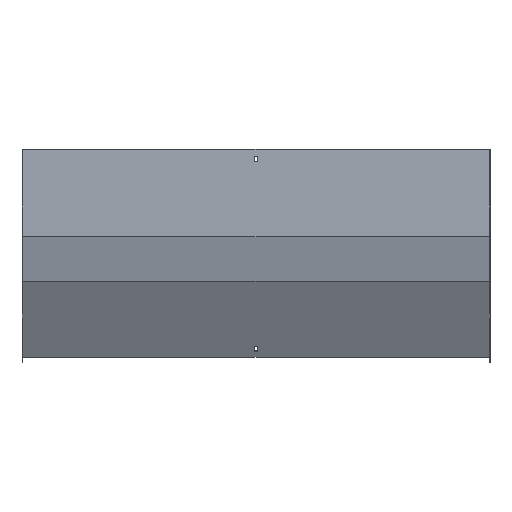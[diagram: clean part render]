
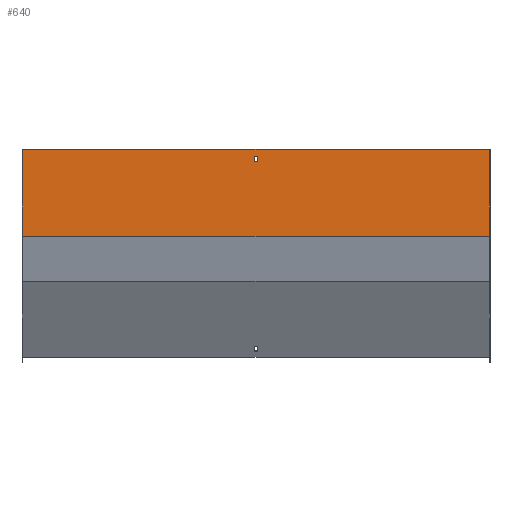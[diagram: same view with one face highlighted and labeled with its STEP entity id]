
A CAD part, front view. The second image highlights one B-rep face of the part: STEP entity #640.
In plain terms, the highlighted planar face has unit normal (0, -1, 0).
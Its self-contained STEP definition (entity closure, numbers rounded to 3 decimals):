
#28 = ORIENTED_EDGE ( 'NONE', *, *, #388, .F. ) ;
#29 = CARTESIAN_POINT ( 'NONE',  ( 401.5, -1.5, -12. ) ) ;
#43 = DIRECTION ( 'NONE',  ( 0., 0., -1. ) ) ;
#53 = CARTESIAN_POINT ( 'NONE',  ( -3.25, -1.5, -12. ) ) ;
#57 = CARTESIAN_POINT ( 'NONE',  ( -400., -1.5, 0. ) ) ;
#62 = VERTEX_POINT ( 'NONE', #784 ) ;
#72 = EDGE_CURVE ( 'NONE', #480, #496, #529, .T. ) ;
#75 = DIRECTION ( 'NONE',  ( 0., 0., 1. ) ) ;
#79 = DIRECTION ( 'NONE',  ( 0., 1., 0. ) ) ;
#157 = VECTOR ( 'NONE', #362, 1000. ) ;
#167 = CARTESIAN_POINT ( 'NONE',  ( -400., -1.5, 0. ) ) ;
#169 = CARTESIAN_POINT ( 'NONE',  ( 401.5, -1.5, -21. ) ) ;
#173 = VECTOR ( 'NONE', #439, 1000. ) ;
#183 = VECTOR ( 'NONE', #759, 1000. ) ;
#203 = FACE_BOUND ( 'NONE', #711, .T. ) ;
#213 = AXIS2_PLACEMENT_3D ( 'NONE', #595, #79, #75 ) ;
#214 = ORIENTED_EDGE ( 'NONE', *, *, #535, .T. ) ;
#217 = CARTESIAN_POINT ( 'NONE',  ( 3.25, -1.5, 0. ) ) ;
#224 = LINE ( 'NONE', #29, #157 ) ;
#242 = CARTESIAN_POINT ( 'NONE',  ( 3.25, -1.5, -21. ) ) ;
#243 = EDGE_CURVE ( 'NONE', #62, #480, #688, .T. ) ;
#249 = EDGE_CURVE ( 'NONE', #648, #334, #442, .T. ) ;
#265 = CARTESIAN_POINT ( 'NONE',  ( -3.25, -1.5, -21. ) ) ;
#275 = DIRECTION ( 'NONE',  ( 0., 0., -1. ) ) ;
#277 = CARTESIAN_POINT ( 'NONE',  ( 400., -1.5, -150.097 ) ) ;
#318 = EDGE_CURVE ( 'NONE', #512, #496, #644, .T. ) ;
#322 = LINE ( 'NONE', #374, #380 ) ;
#331 = VECTOR ( 'NONE', #43, 1000. ) ;
#333 = DIRECTION ( 'NONE',  ( -1., 0., 0. ) ) ;
#334 = VERTEX_POINT ( 'NONE', #242 ) ;
#340 = CARTESIAN_POINT ( 'NONE',  ( 400., -1.5, 0. ) ) ;
#353 = CARTESIAN_POINT ( 'NONE',  ( 3.25, -1.5, -12. ) ) ;
#362 = DIRECTION ( 'NONE',  ( -1., 0., 0. ) ) ;
#370 = DIRECTION ( 'NONE',  ( -1., 0., 0. ) ) ;
#371 = EDGE_LOOP ( 'NONE', ( #789, #563, #545, #214 ) ) ;
#374 = CARTESIAN_POINT ( 'NONE',  ( 401.5, -1.5, 0. ) ) ;
#380 = VECTOR ( 'NONE', #370, 1000. ) ;
#388 = EDGE_CURVE ( 'NONE', #334, #790, #540, .T. ) ;
#436 = CARTESIAN_POINT ( 'NONE',  ( -3.25, -1.5, 0. ) ) ;
#439 = DIRECTION ( 'NONE',  ( 0., 0., -1. ) ) ;
#442 = LINE ( 'NONE', #169, #183 ) ;
#457 = CARTESIAN_POINT ( 'NONE',  ( 401.5, -1.5, -150.097 ) ) ;
#458 = LINE ( 'NONE', #436, #173 ) ;
#480 = VERTEX_POINT ( 'NONE', #277 ) ;
#486 = EDGE_CURVE ( 'NONE', #606, #648, #458, .T. ) ;
#496 = VERTEX_POINT ( 'NONE', #524 ) ;
#503 = VECTOR ( 'NONE', #805, 1000. ) ;
#504 = VECTOR ( 'NONE', #333, 1000. ) ;
#512 = VERTEX_POINT ( 'NONE', #167 ) ;
#524 = CARTESIAN_POINT ( 'NONE',  ( -400., -1.5, -150.097 ) ) ;
#529 = LINE ( 'NONE', #457, #504 ) ;
#534 = PLANE ( 'NONE',  #213 ) ;
#535 = EDGE_CURVE ( 'NONE', #62, #512, #322, .T. ) ;
#539 = VECTOR ( 'NONE', #275, 1000. ) ;
#540 = LINE ( 'NONE', #217, #503 ) ;
#545 = ORIENTED_EDGE ( 'NONE', *, *, #243, .F. ) ;
#563 = ORIENTED_EDGE ( 'NONE', *, *, #72, .F. ) ;
#595 = CARTESIAN_POINT ( 'NONE',  ( 401.5, -1.5, 0. ) ) ;
#606 = VERTEX_POINT ( 'NONE', #53 ) ;
#634 = ORIENTED_EDGE ( 'NONE', *, *, #249, .F. ) ;
#640 = ADVANCED_FACE ( 'NONE', ( #797, #203 ), #534, .F. ) ;
#644 = LINE ( 'NONE', #57, #331 ) ;
#648 = VERTEX_POINT ( 'NONE', #265 ) ;
#685 = ORIENTED_EDGE ( 'NONE', *, *, #486, .F. ) ;
#688 = LINE ( 'NONE', #340, #539 ) ;
#711 = EDGE_LOOP ( 'NONE', ( #28, #634, #685, #715 ) ) ;
#715 = ORIENTED_EDGE ( 'NONE', *, *, #796, .F. ) ;
#759 = DIRECTION ( 'NONE',  ( 1., 0., 0. ) ) ;
#784 = CARTESIAN_POINT ( 'NONE',  ( 400., -1.5, 0. ) ) ;
#789 = ORIENTED_EDGE ( 'NONE', *, *, #318, .T. ) ;
#790 = VERTEX_POINT ( 'NONE', #353 ) ;
#796 = EDGE_CURVE ( 'NONE', #790, #606, #224, .T. ) ;
#797 = FACE_OUTER_BOUND ( 'NONE', #371, .T. ) ;
#805 = DIRECTION ( 'NONE',  ( 0., 0., 1. ) ) ;
